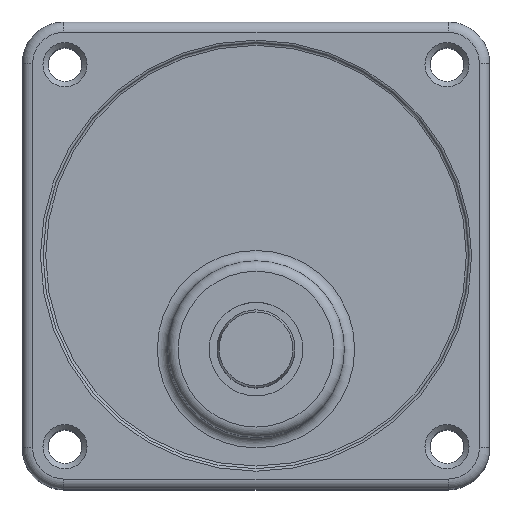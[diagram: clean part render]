
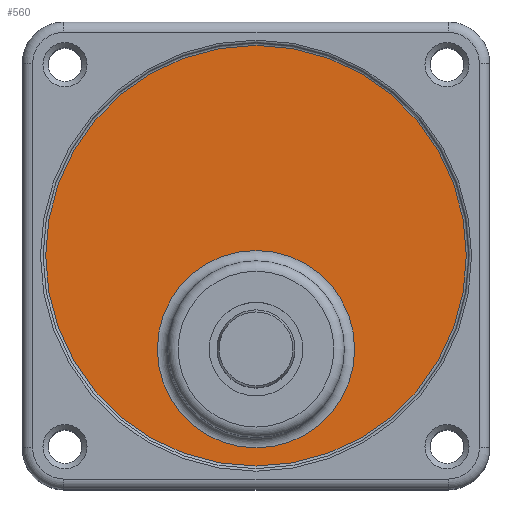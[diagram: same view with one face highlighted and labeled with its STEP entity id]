
A CAD part, top view. The second image highlights one B-rep face of the part: STEP entity #560.
In plain terms, the highlighted planar face has unit normal (0, 0, 1).
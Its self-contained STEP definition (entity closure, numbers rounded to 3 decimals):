
#509=CARTESIAN_POINT('',(64.,27.,64.5));
#510=VERTEX_POINT('',#509);
#511=CARTESIAN_POINT('',(45.,27.0,64.5));
#512=DIRECTION('',(0.0,0.0,1.0));
#513=DIRECTION('',(-1.0,0.0,0.0));
#514=AXIS2_PLACEMENT_3D('',#511,#512,#513);
#515=CIRCLE('',#514,19.0);
#516=EDGE_CURVE('',#510,#510,#515,.T.);
#541=CARTESIAN_POINT('',(45.,45.0,64.5));
#542=DIRECTION('',(0.0,0.0,-1.0));
#543=DIRECTION('',(-1.0,0.0,0.0));
#544=AXIS2_PLACEMENT_3D('',#541,#542,#543);
#545=PLANE('',#544);
#546=CARTESIAN_POINT('',(85.5,45.,64.5));
#547=VERTEX_POINT('',#546);
#548=CARTESIAN_POINT('',(45.,45.0,64.5));
#549=DIRECTION('',(0.0,0.0,-1.0));
#550=DIRECTION('',(-1.0,0.0,0.0));
#551=AXIS2_PLACEMENT_3D('',#548,#549,#550);
#552=CIRCLE('',#551,40.5);
#553=EDGE_CURVE('',#547,#547,#552,.T.);
#554=ORIENTED_EDGE('',*,*,#553,.F.);
#555=EDGE_LOOP('',(#554));
#556=FACE_OUTER_BOUND('',#555,.T.);
#557=ORIENTED_EDGE('',*,*,#516,.F.);
#558=EDGE_LOOP('',(#557));
#559=FACE_BOUND('',#558,.T.);
#560=ADVANCED_FACE('',(#556,#559),#545,.F.);
